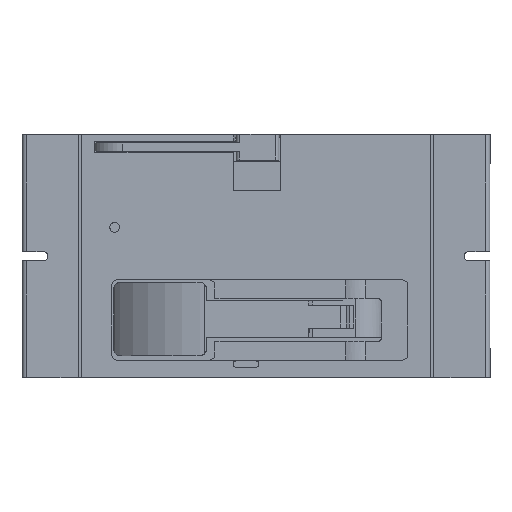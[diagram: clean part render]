
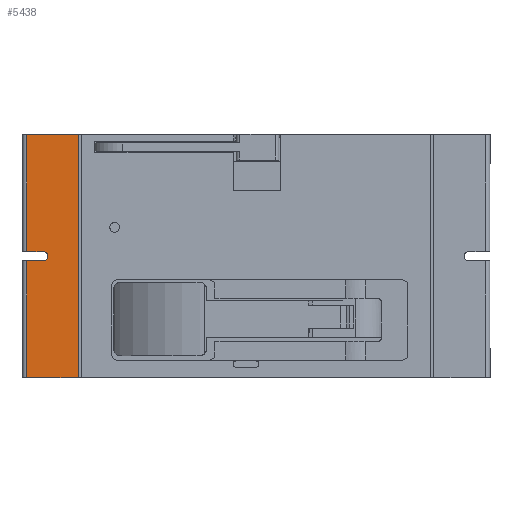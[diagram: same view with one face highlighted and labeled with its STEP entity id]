
A CAD part, front view. The second image highlights one B-rep face of the part: STEP entity #5438.
In plain terms, the highlighted planar face has unit normal (0, -1, 0).
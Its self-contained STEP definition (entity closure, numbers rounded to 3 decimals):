
#198 = VERTEX_POINT ( 'NONE', #6075 ) ;
#199 = VERTEX_POINT ( 'NONE', #6076 ) ;
#227 = VERTEX_POINT ( 'NONE', #6104 ) ;
#228 = VERTEX_POINT ( 'NONE', #6105 ) ;
#229 = VERTEX_POINT ( 'NONE', #6106 ) ;
#230 = VERTEX_POINT ( 'NONE', #6107 ) ;
#231 = VERTEX_POINT ( 'NONE', #6108 ) ;
#870 = CARTESIAN_POINT ( 'NONE',  ( -70., -6.2, 1.5 ) ) ;
#878 = CARTESIAN_POINT ( 'NONE',  ( -68.5, -6.2, 0. ) ) ;
#1102 = PLANE ( 'NONE',  #3133 ) ;
#1105 = CARTESIAN_POINT ( 'NONE',  ( -58.5, -6.2, 40. ) ) ;
#1111 = DIRECTION ( 'NONE',  ( 0., 1., 0. ) ) ;
#1112 = DIRECTION ( 'NONE',  ( -1., 0., 0. ) ) ;
#1576 = FACE_OUTER_BOUND ( 'NONE', #2134, .T. ) ;
#1804 = EDGE_CURVE ( 'NONE', #199, #231, #4761, .T. ) ;
#1806 = EDGE_CURVE ( 'NONE', #3399, #198, #4756, .T. ) ;
#1880 = EDGE_CURVE ( 'NONE', #199, #198, #4896, .T. ) ;
#1975 = EDGE_CURVE ( 'NONE', #227, #228, #5618, .T. ) ;
#2047 = EDGE_CURVE ( 'NONE', #228, #230, #5658, .T. ) ;
#2098 = EDGE_CURVE ( 'NONE', #231, #230, #3422, .T. ) ;
#2134 = EDGE_LOOP ( 'NONE', ( #2541, #2540, #2539, #2538, #2537, #2536, #2535, #2534, #2533 ) ) ;
#2174 = EDGE_CURVE ( 'NONE', #229, #227, #3485, .T. ) ;
#2533 = ORIENTED_EDGE ( 'NONE', *, *, #1804, .F. ) ;
#2534 = ORIENTED_EDGE ( 'NONE', *, *, #2098, .F. ) ;
#2535 = ORIENTED_EDGE ( 'NONE', *, *, #2047, .T. ) ;
#2536 = ORIENTED_EDGE ( 'NONE', *, *, #1975, .T. ) ;
#2537 = ORIENTED_EDGE ( 'NONE', *, *, #2174, .T. ) ;
#2538 = ORIENTED_EDGE ( 'NONE', *, *, #2989, .F. ) ;
#2539 = ORIENTED_EDGE ( 'NONE', *, *, #3175, .F. ) ;
#2540 = ORIENTED_EDGE ( 'NONE', *, *, #1806, .F. ) ;
#2541 = ORIENTED_EDGE ( 'NONE', *, *, #1880, .T. ) ;
#2675 = AXIS2_PLACEMENT_3D ( 'NONE', #7413, #7415, #7416 ) ;
#2944 = AXIS2_PLACEMENT_3D ( 'NONE', #7592, #7601, #7602 ) ;
#2989 = EDGE_CURVE ( 'NONE', #229, #3408, #5132, .T. ) ;
#3133 = AXIS2_PLACEMENT_3D ( 'NONE', #1105, #1111, #1112 ) ;
#3175 = EDGE_CURVE ( 'NONE', #3408, #3399, #5285, .T. ) ;
#3399 = VERTEX_POINT ( 'NONE', #870 ) ;
#3408 = VERTEX_POINT ( 'NONE', #878 ) ;
#3422 = LINE ( 'NONE', #6920, #3423 ) ;
#3423 = VECTOR ( 'NONE', #6921, 1000. ) ;
#3485 = LINE ( 'NONE', #7003, #3486 ) ;
#3486 = VECTOR ( 'NONE', #7004, 1000. ) ;
#4756 = LINE ( 'NONE', #6309, #4765 ) ;
#4761 = LINE ( 'NONE', #6311, #4762 ) ;
#4762 = VECTOR ( 'NONE', #6312, 1000. ) ;
#4765 = VECTOR ( 'NONE', #6317, 1000. ) ;
#4896 = LINE ( 'NONE', #6501, #4897 ) ;
#4897 = VECTOR ( 'NONE', #6502, 1000. ) ;
#5132 = CIRCLE ( 'NONE', #2675, 1.5 ) ;
#5285 = CIRCLE ( 'NONE', #2944, 1.5 ) ;
#5438 = ADVANCED_FACE ( 'NONE', ( #1576 ), #1102, .F. ) ;
#5618 = LINE ( 'NONE', #6713, #5632 ) ;
#5632 = VECTOR ( 'NONE', #6718, 1000. ) ;
#5658 = LINE ( 'NONE', #6799, #5682 ) ;
#5682 = VECTOR ( 'NONE', #6803, 1000. ) ;
#6075 = CARTESIAN_POINT ( 'NONE',  ( -75.5, -6.2, 1.5 ) ) ;
#6076 = CARTESIAN_POINT ( 'NONE',  ( -75.5, -6.2, 40. ) ) ;
#6104 = CARTESIAN_POINT ( 'NONE',  ( -75.5, -6.2, -1.5 ) ) ;
#6105 = CARTESIAN_POINT ( 'NONE',  ( -75.5, -6.2, -40. ) ) ;
#6106 = CARTESIAN_POINT ( 'NONE',  ( -70., -6.2, -1.5 ) ) ;
#6107 = CARTESIAN_POINT ( 'NONE',  ( -58.5, -6.2, -40. ) ) ;
#6108 = CARTESIAN_POINT ( 'NONE',  ( -58.5, -6.2, 40. ) ) ;
#6309 = CARTESIAN_POINT ( 'NONE',  ( -77., -6.2, 1.5 ) ) ;
#6311 = CARTESIAN_POINT ( 'NONE',  ( -58.5, -6.2, 40. ) ) ;
#6312 = DIRECTION ( 'NONE',  ( 1., 0., 0. ) ) ;
#6317 = DIRECTION ( 'NONE',  ( -1., 0., 0. ) ) ;
#6501 = CARTESIAN_POINT ( 'NONE',  ( -75.5, -6.2, 40. ) ) ;
#6502 = DIRECTION ( 'NONE',  ( 0., 0., -1. ) ) ;
#6713 = CARTESIAN_POINT ( 'NONE',  ( -75.5, -6.2, 40. ) ) ;
#6718 = DIRECTION ( 'NONE',  ( 0., 0., -1. ) ) ;
#6799 = CARTESIAN_POINT ( 'NONE',  ( -58.5, -6.2, -40. ) ) ;
#6803 = DIRECTION ( 'NONE',  ( 1., 0., 0. ) ) ;
#6920 = CARTESIAN_POINT ( 'NONE',  ( -58.5, -6.2, 40. ) ) ;
#6921 = DIRECTION ( 'NONE',  ( 0., 0., -1. ) ) ;
#7003 = CARTESIAN_POINT ( 'NONE',  ( -58.5, -6.2, -1.5 ) ) ;
#7004 = DIRECTION ( 'NONE',  ( -1., 0., 0. ) ) ;
#7413 = CARTESIAN_POINT ( 'NONE',  ( -70., -6.2, 0. ) ) ;
#7415 = DIRECTION ( 'NONE',  ( 0., -1., 0. ) ) ;
#7416 = DIRECTION ( 'NONE',  ( -1., 0., 0. ) ) ;
#7592 = CARTESIAN_POINT ( 'NONE',  ( -70., -6.2, 0. ) ) ;
#7601 = DIRECTION ( 'NONE',  ( 0., -1., 0. ) ) ;
#7602 = DIRECTION ( 'NONE',  ( -1., 0., 0. ) ) ;
